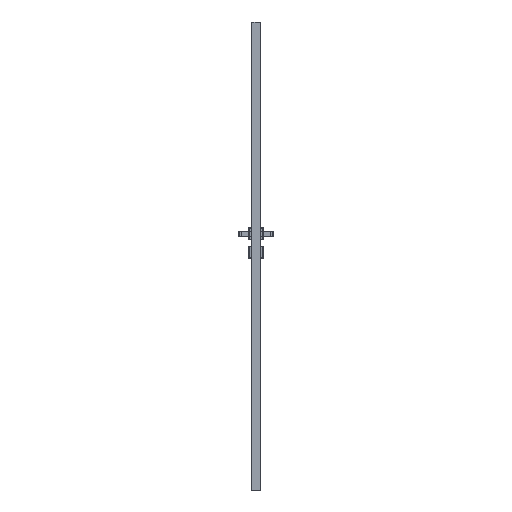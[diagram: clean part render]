
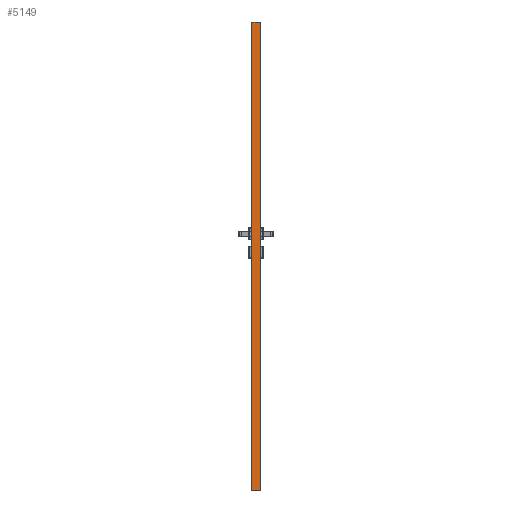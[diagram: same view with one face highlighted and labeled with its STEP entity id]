
A CAD part, left-side view. The second image highlights one B-rep face of the part: STEP entity #5149.
In plain terms, the highlighted planar face has unit normal (-1, 0, 0).
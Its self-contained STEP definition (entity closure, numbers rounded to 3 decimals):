
#2408=FACE_OUTER_BOUND('',#12013,.T.);
#5149=ADVANCED_FACE('',(#2408),#7523,.F.);
#7523=PLANE('',#57052);
#12013=EDGE_LOOP('',(#18330,#18331,#18332,#18333));
#18330=ORIENTED_EDGE('',*,*,#38074,.T.);
#18331=ORIENTED_EDGE('',*,*,#37915,.T.);
#18332=ORIENTED_EDGE('',*,*,#38075,.F.);
#18333=ORIENTED_EDGE('',*,*,#38076,.T.);
#31941=VERTEX_POINT('',#84647);
#31942=VERTEX_POINT('',#84649);
#31990=VERTEX_POINT('',#84971);
#31991=VERTEX_POINT('',#84973);
#37915=EDGE_CURVE('',#31942,#31941,#45230,.T.);
#38074=EDGE_CURVE('',#31990,#31942,#45361,.T.);
#38075=EDGE_CURVE('',#31991,#31941,#45362,.T.);
#38076=EDGE_CURVE('',#31991,#31990,#45363,.T.);
#45230=LINE('',#84648,#51115);
#45361=LINE('',#84970,#51246);
#45362=LINE('',#84972,#51247);
#45363=LINE('',#84974,#51248);
#51115=VECTOR('',#64049,1.);
#51246=VECTOR('',#64466,1.);
#51247=VECTOR('',#64467,1.);
#51248=VECTOR('',#64468,1.);
#57052=AXIS2_PLACEMENT_3D('',#84975,#64469,#64470);
#64049=DIRECTION('',(0.,1.,0.));
#64466=DIRECTION('',(0.,0.,1.));
#64467=DIRECTION('',(0.,0.,1.));
#64468=DIRECTION('',(0.,-1.,0.));
#64469=DIRECTION('',(1.,0.,0.));
#64470=DIRECTION('',(0.,1.,0.));
#84647=CARTESIAN_POINT('',(-309.,-1.65,2017.01));
#84648=CARTESIAN_POINT('',(-309.,0.,2017.01));
#84649=CARTESIAN_POINT('',(-309.,-38.35,2017.01));
#84970=CARTESIAN_POINT('',(-309.,-38.35,0.));
#84971=CARTESIAN_POINT('',(-309.,-38.35,0.));
#84972=CARTESIAN_POINT('',(-309.,-1.65,0.));
#84973=CARTESIAN_POINT('',(-309.,-1.65,0.));
#84974=CARTESIAN_POINT('',(-309.,-38.35,0.));
#84975=CARTESIAN_POINT('',(-309.,-38.35,0.));
